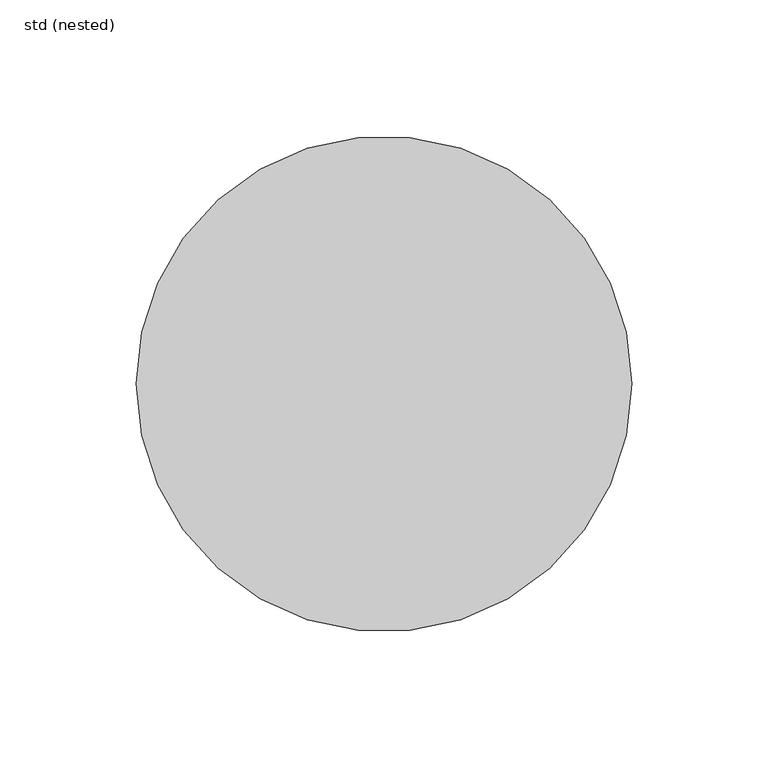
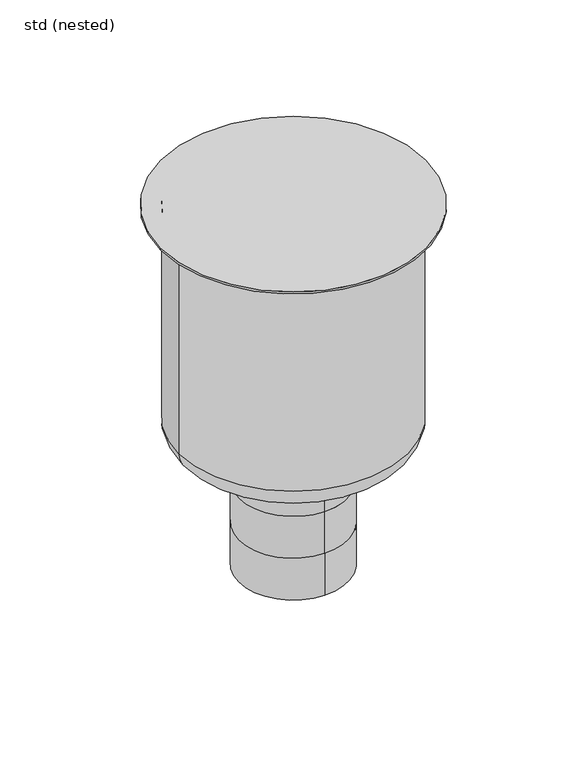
"""IFC4 building model written with IfcOpenShell, lengths in millimetres: sanitary terminal geometry, ZZZ_do not use_PF_ST_UN_telescopic hygienic gully_ACO : std (nested)."""

from ifc_helpers import new_model, si_unit, point, frame, origin, origin_with_axes, place, context, project, spatial, circle_curve, ellipse_curve, trimmed, source, transform, mapped, element, save
from ifc_brep_helpers import plane_surface, cylinder_surface, revolved_surface, advanced_brep


def std_nested_70ec9771(model_context):
    return source(origin(), model_context, "Body", "AdvancedBrep", [
        advanced_brep(
        [(0.0, -37.5, -261.0), (0.0, 37.5, -261.0), (0.0, -37.5, -230.6666667), (0.0, 37.5, -230.6666667), (0.0, -37.5, -200.3333333), (0.0, 37.5, -200.3333333), (0.0, 37.5, -170.0), (37.5, 0.0, -170.0), (0.0, -37.5, -170.0), (-37.5, 0.0, -170.0), (78.5, 0.0, -153.5), (-78.5, 0.0, -153.5), (-78.5, 0.0, -1.5), (78.5, 0.0, -1.5), (62.0, 0.0, -170.0), (-62.0, 0.0, -170.0), (-91.0, 0.0, -1.5), (91.0, 0.0, -1.5), (-91.0, 0.0, 0.0), (91.0, 0.0, 0.0)],
        [
            (0, 1, circle_curve(frame((0.0, 0.0, -261.0), z_axis=(0.0, 0.0, -1.0), x_axis=(0.0, 1.0, 0.0)), 37.5)),
            (1, 0, circle_curve(frame((0.0, 0.0, -261.0), z_axis=(0.0, 0.0, -1.0), x_axis=(0.0, 1.0, 0.0)), 37.5)),
            (0, 2),
            (2, 3, circle_curve(frame((0.0, 0.0, -230.6666667), z_axis=(0.0, 0.0, -1.0), x_axis=(0.0, 1.0, 0.0)), 37.5)),
            (3, 1),
            (3, 2, circle_curve(frame((0.0, 0.0, -230.6666667), z_axis=(0.0, 0.0, -1.0), x_axis=(0.0, 1.0, 0.0)), 37.5)),
            (4, 2),
            (3, 5),
            (5, 4, circle_curve(frame((0.0, 0.0, -200.3333333), z_axis=(0.0, 0.0, -1.0), x_axis=(1.0, 0.0, 0.0)), 37.5)),
            (4, 5, circle_curve(frame((0.0, 0.0, -200.3333333), z_axis=(0.0, 0.0, -1.0), x_axis=(-1.0, 0.0, 0.0)), 37.5)),
            (5, 6),
            (6, 7, circle_curve(frame((0.0, 0.0, -170.0), z_axis=(0.0, 0.0, -1.0), x_axis=(0.0, 1.0, 0.0)), 37.5)),
            (7, 8, circle_curve(frame((0.0, 0.0, -170.0), z_axis=(0.0, 0.0, -1.0), x_axis=(0.0, 1.0, 0.0)), 37.5)),
            (8, 4),
            (8, 9, circle_curve(frame((0.0, 0.0, -170.0), z_axis=(0.0, 0.0, -1.0), x_axis=(0.0, 1.0, 0.0)), 37.5)),
            (9, 6, circle_curve(frame((0.0, 0.0, -170.0), z_axis=(0.0, 0.0, -1.0), x_axis=(0.0, 1.0, 0.0)), 37.5)),
            (10, 11, circle_curve(frame((0.0, 0.0, -153.5), z_axis=(0.0, 0.0, 1.0), x_axis=(-1.0, 0.0, 0.0)), 78.5)),
            (11, 12),
            (12, 13, circle_curve(frame((0.0, 0.0, -1.5), z_axis=(0.0, 0.0, -1.0), x_axis=(-1.0, 0.0, 0.0)), 78.5)),
            (13, 10),
            (11, 10, circle_curve(frame((0.0, 0.0, -153.5), z_axis=(0.0, 0.0, 1.0), x_axis=(-1.0, 0.0, 0.0)), 78.5)),
            (13, 12, circle_curve(frame((0.0, 0.0, -1.5), z_axis=(0.0, 0.0, -1.0), x_axis=(-1.0, 0.0, 0.0)), 78.5)),
            (10, 14, circle_curve(frame((62.0, 0.0, -153.5), z_axis=(0.0, 1.0, 0.0), x_axis=(-1.0, 0.0, 0.0)), 16.5)),
            (14, 15, circle_curve(frame((0.0, 0.0, -170.0), z_axis=(0.0, 0.0, 1.0), x_axis=(-1.0, 0.0, 0.0)), 62.0)),
            (15, 11, circle_curve(frame((-62.0, 0.0, -153.5), z_axis=(0.0, 1.0, 0.0), x_axis=(1.0, 0.0, 0.0)), 16.5)),
            (15, 14, circle_curve(frame((0.0, 0.0, -170.0), z_axis=(0.0, 0.0, 1.0), x_axis=(-1.0, 0.0, 0.0)), 62.0)),
            (14, 7),
            (9, 15),
            (16, 17, circle_curve(frame((0.0, 0.0, -1.5), z_axis=(0.0, 0.0, -1.0), x_axis=(1.0, 0.0, 0.0)), 91.0)),
            (17, 16, circle_curve(frame((0.0, 0.0, -1.5), z_axis=(0.0, 0.0, -1.0), x_axis=(1.0, 0.0, 0.0)), 91.0)),
            (18, 19, circle_curve(origin_with_axes(), 91.0)),
            (19, 18, circle_curve(origin_with_axes(), 91.0)),
            (17, 19),
            (18, 16),
        ],
        [
            plane_surface(frame((0.0, 37.5, -261.0), z_axis=(0.0, 0.0, -1.0), x_axis=(1.0, 0.0, 0.0))),
            cylinder_surface(frame((0.0, 0.0, -230.6666667), z_axis=(0.0, 0.0, -1.0), x_axis=(0.0, 1.0, 0.0)), 37.5),
            cylinder_surface(frame((0.0, 0.0, -200.3333333), z_axis=(0.0, 0.0, -1.0), x_axis=(1.0, 0.0, 0.0)), 37.5),
            cylinder_surface(frame((0.0, 0.0, -200.3333333), z_axis=(0.0, 0.0, -1.0), x_axis=(-1.0, 0.0, 0.0)), 37.5),
            cylinder_surface(frame((0.0, 0.0, -170.0), z_axis=(0.0, 0.0, -1.0), x_axis=(0.0, 1.0, 0.0)), 37.5),
            cylinder_surface(frame((0.0, 0.0, 60.0), z_axis=(0.0, 0.0, -1.0), x_axis=(-1.0, 0.0, 0.0)), 78.5),
            revolved_surface(trimmed(ellipse_curve(frame((-62.0, 0.0, -153.5), z_axis=(0.0, -1.0, 0.0), x_axis=(1.0, 0.0, 0.0)), 16.5, 16.5), [point((-78.5, 0.0, -153.5))], [point((-62.0, 0.0, -170.0))], True, "CARTESIAN"), (0.0, 0.0, 60.0), (0.0, 0.0, -1.0)),
            plane_surface(frame((0.0, 0.0, -170.0), z_axis=(0.0, 0.0, -1.0), x_axis=(-1.0, 0.0, 0.0))),
            plane_surface(frame((91.0, 0.0, -1.5), z_axis=(0.0, 0.0, -1.0), x_axis=(0.0, -1.0, 0.0))),
            plane_surface(frame((91.0, 0.0, 0.0), z_axis=(0.0, 0.0, 1.0), x_axis=(0.0, 1.0, 0.0))),
            cylinder_surface(frame((0.0, 0.0, -1.5), z_axis=(0.0, 0.0, 1.0), x_axis=(1.0, 0.0, 0.0)), 91.0),
        ],
        [
            (0, [[1, 2]]),
            (1, [[-1, 3, 4, 5]]),
            (1, [[-2, -5, 6, -3]]),
            (2, [[7, -6, 8, 9]]),
            (3, [[-7, 10, -8, -4]]),
            (4, [[11, 12, 13, 14, -9]]),
            (4, [[-11, -10, -14, 15, 16]]),
            (5, [[17, 18, 19, 20]]),
            (5, [[-18, 21, -20, 22]]),
            (6, [[-17, 23, 24, 25]]),
            (6, [[-21, -25, 26, -23]]),
            (7, [[-24, 27, -12, -16, 28]]),
            (7, [[-26, -28, -15, -13, -27]]),
            (8, [[29, 30], [-19, -22]]),
            (9, [[31, 32]]),
            (10, [[-30, 33, -31, 34]]),
            (10, [[-29, -34, -32, -33]]),
        ],
    ),
    ])


if __name__ == "__main__":
    model = new_model("IFC4")
    model_context = context("Model", 3, world=origin())
    ifc_project = project(units=[si_unit("LENGTHUNIT", "METRE", prefix="MILLI")], contexts=[model_context])
    site = spatial("IfcSite", under=ifc_project)
    building = spatial("IfcBuilding", under=site)
    placement = place(None, origin())
    std_nested_shape = std_nested_70ec9771(model_context)
    element("IfcSanitaryTerminal", 1, ObjectType="ZZZ_do not use_PF_ST_UN_telescopic hygienic gully_ACO : std (nested)", at=placement, inside=building, context=model_context, shape_type="MappedRepresentation", body=[
        mapped(std_nested_shape, transform((0.0, 0.0, 0.0), x_axis=(1.0, 0.0, 0.0), y_axis=(0.0, 1.0, 0.0), z_axis=(0.0, 0.0, 1.0))),
    ])
    save(model, "model.ifc")
